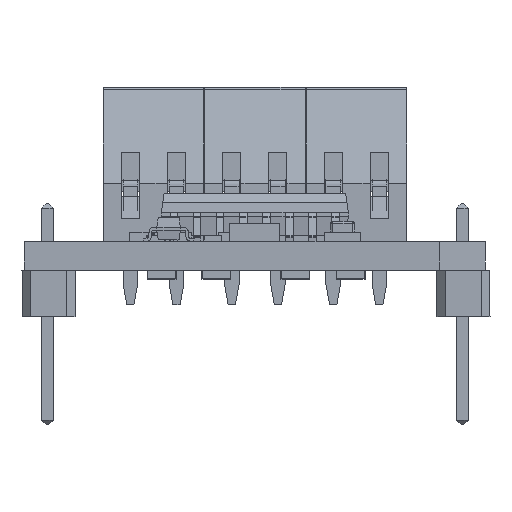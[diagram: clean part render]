
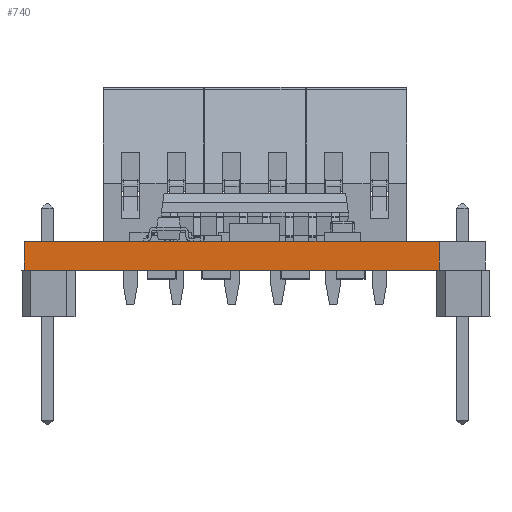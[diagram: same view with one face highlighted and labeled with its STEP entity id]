
A CAD part, front view. The second image highlights one B-rep face of the part: STEP entity #740.
In plain terms, the highlighted planar face has unit normal (0, -1, 0).
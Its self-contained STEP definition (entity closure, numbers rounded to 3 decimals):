
#715 = VERTEX_POINT('',#716);
#716 = CARTESIAN_POINT('',(21.59,-3.81,0.));
#722 = EDGE_CURVE('',#723,#715,#725,.T.);
#723 = VERTEX_POINT('',#724);
#724 = CARTESIAN_POINT('',(21.59,-3.81,-1.59));
#725 = LINE('',#726,#727);
#726 = CARTESIAN_POINT('',(21.59,-3.81,-1.59));
#727 = VECTOR('',#728,1.);
#728 = DIRECTION('',(0.,0.,1.));
#740 = ADVANCED_FACE('',(#741),#766,.T.);
#741 = FACE_BOUND('',#742,.T.);
#742 = EDGE_LOOP('',(#743,#744,#752,#760));
#743 = ORIENTED_EDGE('',*,*,#722,.T.);
#744 = ORIENTED_EDGE('',*,*,#745,.T.);
#745 = EDGE_CURVE('',#715,#746,#748,.T.);
#746 = VERTEX_POINT('',#747);
#747 = CARTESIAN_POINT('',(-1.27,-3.81,0.));
#748 = LINE('',#749,#750);
#749 = CARTESIAN_POINT('',(21.59,-3.81,0.));
#750 = VECTOR('',#751,1.);
#751 = DIRECTION('',(-1.,0.,0.));
#752 = ORIENTED_EDGE('',*,*,#753,.F.);
#753 = EDGE_CURVE('',#754,#746,#756,.T.);
#754 = VERTEX_POINT('',#755);
#755 = CARTESIAN_POINT('',(-1.27,-3.81,-1.59));
#756 = LINE('',#757,#758);
#757 = CARTESIAN_POINT('',(-1.27,-3.81,-1.59));
#758 = VECTOR('',#759,1.);
#759 = DIRECTION('',(0.,0.,1.));
#760 = ORIENTED_EDGE('',*,*,#761,.F.);
#761 = EDGE_CURVE('',#723,#754,#762,.T.);
#762 = LINE('',#763,#764);
#763 = CARTESIAN_POINT('',(21.59,-3.81,-1.59));
#764 = VECTOR('',#765,1.);
#765 = DIRECTION('',(-1.,0.,0.));
#766 = PLANE('',#767);
#767 = AXIS2_PLACEMENT_3D('',#768,#769,#770);
#768 = CARTESIAN_POINT('',(21.59,-3.81,-1.59));
#769 = DIRECTION('',(0.,-1.,0.));
#770 = DIRECTION('',(-1.,0.,0.));
